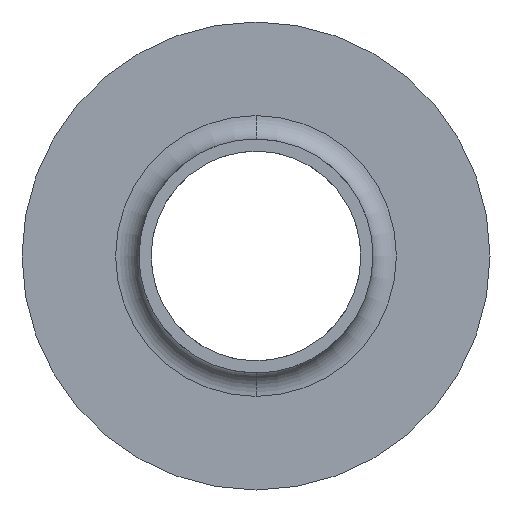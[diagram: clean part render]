
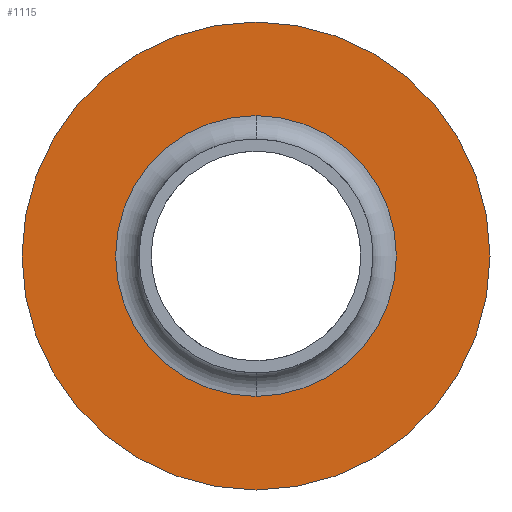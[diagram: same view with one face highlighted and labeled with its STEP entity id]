
A CAD part, front view. The second image highlights one B-rep face of the part: STEP entity #1115.
In plain terms, the highlighted planar face has unit normal (0, -1, 0).
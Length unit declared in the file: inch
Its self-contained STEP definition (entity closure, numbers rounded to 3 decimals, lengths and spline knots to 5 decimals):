
#13 = CARTESIAN_POINT ( 'NONE',  ( 0., 0.38789, 0. ) ) ;
#133 = DIRECTION ( 'NONE',  ( 0., 0., 1. ) ) ;
#150 = CIRCLE ( 'NONE', #2319, 1.25 ) ;
#171 = DIRECTION ( 'NONE',  ( 0., -1., 0. ) ) ;
#177 = ORIENTED_EDGE ( 'NONE', *, *, #2469, .F. ) ;
#238 = DIRECTION ( 'NONE',  ( 0., 0., -1. ) ) ;
#253 = CARTESIAN_POINT ( 'NONE',  ( 0., 0.38789, 1.25 ) ) ;
#329 = DIRECTION ( 'NONE',  ( 0., 1., 0. ) ) ;
#428 = DIRECTION ( 'NONE',  ( 0., -1., 0. ) ) ;
#676 = AXIS2_PLACEMENT_3D ( 'NONE', #1426, #171, #1627 ) ;
#718 = VERTEX_POINT ( 'NONE', #253 ) ;
#796 = FACE_OUTER_BOUND ( 'NONE', #2044, .T. ) ;
#849 = CARTESIAN_POINT ( 'NONE',  ( 0., 0.38789, 0. ) ) ;
#861 = EDGE_LOOP ( 'NONE', ( #1538, #177 ) ) ;
#882 = VERTEX_POINT ( 'NONE', #2689 ) ;
#929 = CIRCLE ( 'NONE', #676, 0.75 ) ;
#1094 = CARTESIAN_POINT ( 'NONE',  ( 0., 0.38789, 0. ) ) ;
#1115 = ADVANCED_FACE ( 'NONE', ( #2529, #796 ), #1378, .F. ) ;
#1303 = DIRECTION ( 'NONE',  ( 0., 0., -1. ) ) ;
#1367 = DIRECTION ( 'NONE',  ( 0., 0., -1. ) ) ;
#1374 = CARTESIAN_POINT ( 'NONE',  ( 0., 0.38789, 0.75 ) ) ;
#1378 = PLANE ( 'NONE',  #1390 ) ;
#1390 = AXIS2_PLACEMENT_3D ( 'NONE', #2217, #329, #133 ) ;
#1426 = CARTESIAN_POINT ( 'NONE',  ( 0., 0.38789, 0. ) ) ;
#1483 = DIRECTION ( 'NONE',  ( 0., -1., 0. ) ) ;
#1538 = ORIENTED_EDGE ( 'NONE', *, *, #1967, .F. ) ;
#1627 = DIRECTION ( 'NONE',  ( 0., 0., -1. ) ) ;
#1746 = AXIS2_PLACEMENT_3D ( 'NONE', #13, #1483, #238 ) ;
#1795 = EDGE_CURVE ( 'NONE', #718, #882, #2349, .T. ) ;
#1869 = CIRCLE ( 'NONE', #1746, 0.75 ) ;
#1967 = EDGE_CURVE ( 'NONE', #2288, #2351, #1869, .T. ) ;
#1984 = CARTESIAN_POINT ( 'NONE',  ( 0., 0.38789, -0.75 ) ) ;
#2044 = EDGE_LOOP ( 'NONE', ( #2077, #2056 ) ) ;
#2056 = ORIENTED_EDGE ( 'NONE', *, *, #1795, .T. ) ;
#2077 = ORIENTED_EDGE ( 'NONE', *, *, #2087, .T. ) ;
#2087 = EDGE_CURVE ( 'NONE', #882, #718, #150, .T. ) ;
#2217 = CARTESIAN_POINT ( 'NONE',  ( -1.25, 0.38789, 0. ) ) ;
#2288 = VERTEX_POINT ( 'NONE', #1984 ) ;
#2319 = AXIS2_PLACEMENT_3D ( 'NONE', #1094, #2547, #1303 ) ;
#2349 = CIRCLE ( 'NONE', #2641, 1.25 ) ;
#2351 = VERTEX_POINT ( 'NONE', #1374 ) ;
#2469 = EDGE_CURVE ( 'NONE', #2351, #2288, #929, .T. ) ;
#2529 = FACE_BOUND ( 'NONE', #861, .T. ) ;
#2547 = DIRECTION ( 'NONE',  ( 0., -1., 0. ) ) ;
#2641 = AXIS2_PLACEMENT_3D ( 'NONE', #849, #428, #1367 ) ;
#2689 = CARTESIAN_POINT ( 'NONE',  ( 0., 0.38789, -1.25 ) ) ;
